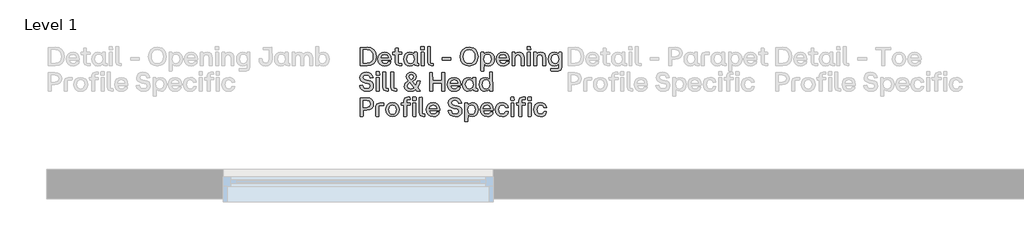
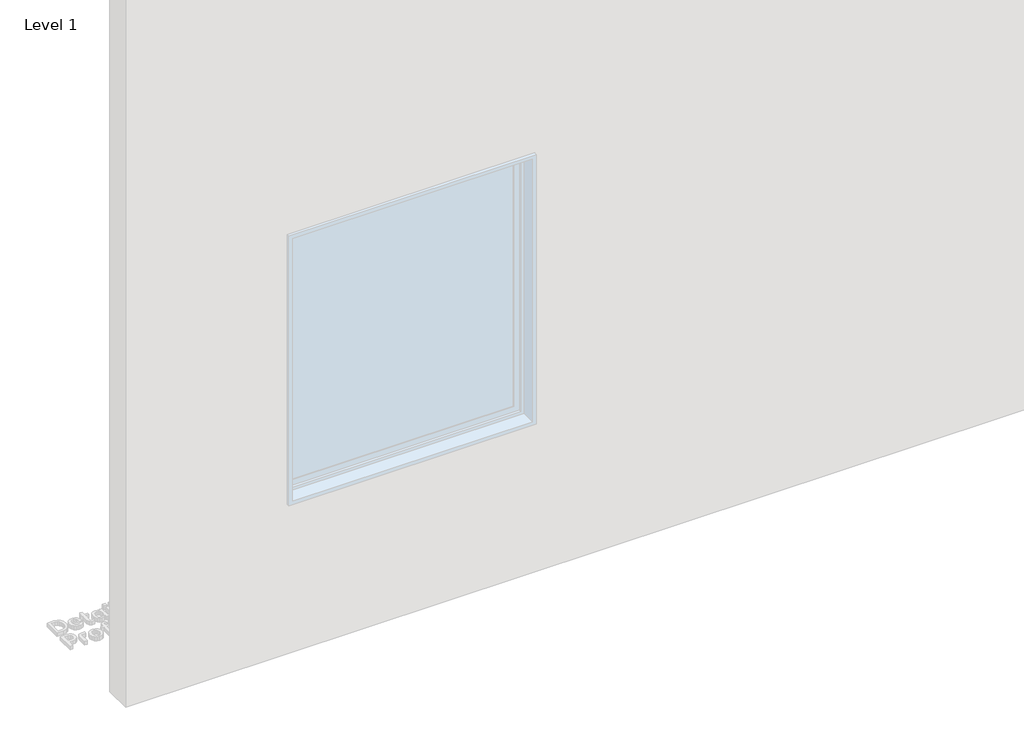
# One storey, part 61 of 64: 1 proxy.
"""IFC4 building model written with IfcOpenShell, lengths in millimetres."""

import ifcopenshell
import ifcopenshell.guid

model = None  # the IFC model being written
_history = None  # IfcOwnerHistory: only IFC2X3 demands one
_inside = {}  # id of a spatial element -> (the spatial element, [elements in it])
_under = {}  # id of a project, library or spatial element -> (it, [spatial elements below it])
_declared = {}  # id of a project -> (the project, [libraries it declares])
_typed = {}  # id of a type object -> (the type object, [elements of that type])
_made_of = {}  # id of a material, layer set ... -> (it, [elements and type objects made of it])


def new_model(schema):
    """Start an empty IFC model of exactly this schema.

    Asked for "IFC4X3", IfcOpenShell would pick the latest addendum, in which some entities
    have other attributes; the version numbers below select the first issue.
    IFC2X3 requires an IfcOwnerHistory on every rooted entity: one is made here for all.
    """
    global model, _history
    if schema == "IFC4X3":
        model = ifcopenshell.file(schema_version=(4, 3, 0, 0))
    else:
        model = ifcopenshell.file(schema=schema)
    _inside.clear()
    _under.clear()
    _declared.clear()
    _typed.clear()
    _made_of.clear()
    _history = None
    if model.schema == "IFC2X3":
        org = make("IfcOrganization", Name="unknown")
        user = make(
            "IfcPersonAndOrganization",
            ThePerson=make("IfcPerson", FamilyName="unknown"),
            TheOrganization=org,
        )
        app = make(
            "IfcApplication",
            ApplicationDeveloper=org,
            Version="unknown",
            ApplicationFullName="unknown",
            ApplicationIdentifier="unknown",
        )
        _history = make(
            "IfcOwnerHistory",
            OwningUser=user,
            OwningApplication=app,
            ChangeAction="ADDED",
            CreationDate=0,
        )
    return model


def make(cls, **values):
    """One entity of the class cls with the attributes given. An attribute that is None is left unset."""
    return model.create_entity(
        cls, **{name: value for name, value in values.items() if value is not None}
    )


def rooted(cls, **values):
    """An entity with a GlobalId (a new one), such as an element, a storey or a relation."""
    return make(cls, GlobalId=ifcopenshell.guid.new(), OwnerHistory=_history, **values)


def si_unit(unit_type, name, prefix=None):
    """IfcSIUnit, for example si_unit("LENGTHUNIT", "METRE", prefix="MILLI")."""
    return make("IfcSIUnit", UnitType=unit_type, Prefix=prefix, Name=name)


def assignment(units):
    """IfcUnitAssignment: the units of a project."""
    return None if units is None else make("IfcUnitAssignment", Units=units)


def point(xyz):
    """IfcCartesianPoint."""
    return None if xyz is None else make("IfcCartesianPoint", Coordinates=xyz)


def direction(xyz):
    """IfcDirection."""
    return None if xyz is None else make("IfcDirection", DirectionRatios=xyz)


def frame(location, z_axis=None, x_axis=None):
    """IfcAxis2Placement3D, a coordinate frame: its origin and axes. An axis left out is left unset."""
    return make(
        "IfcAxis2Placement3D",
        Location=point(location),
        Axis=direction(z_axis),
        RefDirection=direction(x_axis),
    )


def origin():
    """The frame at (0, 0, 0) with its axes left unset."""
    return frame((0.0, 0.0, 0.0))


def origin_with_axes():
    """The frame at (0, 0, 0) with the z axis (0, 0, 1) and the x axis (1, 0, 0) written out."""
    return frame((0.0, 0.0, 0.0), z_axis=(0.0, 0.0, 1.0), x_axis=(1.0, 0.0, 0.0))


def place(relative_to, where):
    """IfcLocalPlacement: puts the frame where relative to a parent placement (None: the world)."""
    return make(
        "IfcLocalPlacement", PlacementRelTo=relative_to, RelativePlacement=where
    )


def context(
    kind, dimensions, precision=None, world=None, true_north=None, identifier=None
):
    """IfcGeometricRepresentationContext, for example the 3D "Model" context."""
    return make(
        "IfcGeometricRepresentationContext",
        ContextIdentifier=identifier,
        ContextType=kind,
        CoordinateSpaceDimension=dimensions,
        Precision=precision,
        WorldCoordinateSystem=world,
        TrueNorth=true_north,
    )


def project(units=None, contexts=None):
    """IfcProject with its units and contexts."""
    return rooted(
        "IfcProject",
        Name="project",
        RepresentationContexts=contexts,
        UnitsInContext=assignment(units),
    )


def spatial(cls, under=None, at=None, **own):
    """A site, building, storey or space (cls), placed at a placement, below another one or the project."""
    s = rooted(cls, ObjectPlacement=at, **own)
    if under is not None:
        _under.setdefault(under.id(), (under, []))[1].append(s)
    return s


def polyline(points):
    """IfcPolyline through the points."""
    return make("IfcPolyline", Points=[point(p) for p in points])


def outline(outer, holes=None, kind="AREA"):
    """IfcArbitraryClosedProfileDef: a profile drawn as a closed curve; with holes, ...WithVoids."""
    if holes is None:
        return make("IfcArbitraryClosedProfileDef", ProfileType=kind, OuterCurve=outer)
    return make(
        "IfcArbitraryProfileDefWithVoids",
        ProfileType=kind,
        OuterCurve=outer,
        InnerCurves=holes,
    )


def extrude(swept, where, along, depth):
    """IfcExtrudedAreaSolid: the profile swept, set in the frame where, extruded along a direction by depth."""
    return make(
        "IfcExtrudedAreaSolid",
        SweptArea=swept,
        Position=where,
        ExtrudedDirection=direction(along),
        Depth=depth,
    )


def shape(context_of_items, identifier, shape_type, items):
    """IfcShapeRepresentation: the items that make up one representation, for example the "Body"."""
    return make(
        "IfcShapeRepresentation",
        ContextOfItems=context_of_items,
        RepresentationIdentifier=identifier,
        RepresentationType=shape_type,
        Items=items,
    )


def made_of(thing, what):
    """Note that an element or type object is made of a material, layer set ...; save() writes the relation."""
    if what is not None:
        _made_of.setdefault(what.id(), (what, []))[1].append(thing)
    return thing


def element(
    cls,
    number,
    at=None,
    inside=None,
    cuts=None,
    type_object=None,
    material=None,
    context=None,
    identifier="Body",
    shape_type=None,
    held_by="IfcProductDefinitionShape",
    body=None,
    shapes=None,
    **own,
):
    """One element of the class cls, such as IfcWall. Its Tag is "e" and its number.

    at: its placement. inside: the storey or other place that contains it. cuts: it is an
    opening in that element (IfcRelVoidsElement). A single representation is given by context,
    identifier, shape_type and body (its items); several are given by shapes. held_by: the class
    of the entity that holds the representations. save() writes the other relations.
    """
    e = rooted(cls, Tag="e%d" % number, ObjectPlacement=at, **own)
    if body is not None:
        shapes = [shape(context, identifier, shape_type, body)]
    if shapes is not None:
        e.Representation = make(held_by, Representations=shapes)
    if inside is not None:
        _inside.setdefault(inside.id(), (inside, []))[1].append(e)
    if cuts is not None:
        rooted(
            "IfcRelVoidsElement", RelatingBuildingElement=cuts, RelatedOpeningElement=e
        )
    if type_object is not None:
        _typed.setdefault(type_object.id(), (type_object, []))[1].append(e)
    return made_of(e, material)


def aggregate(whole, parts):
    """IfcRelAggregates: a whole, such as a stair, and the parts it consists of."""
    return rooted("IfcRelAggregates", RelatingObject=whole, RelatedObjects=parts)


def save(model, path):
    """Write the relations noted so far, then the file.

    IfcRelAggregates (storeys below a building ...), IfcRelContainedInSpatialStructure (elements
    in a storey), IfcRelDefinesByType, IfcRelAssociatesMaterial and IfcRelDeclares: one each for
    every whole, place, type object, material and project.
    """
    for whole, parts in _under.values():
        aggregate(whole, parts)
    for where, things in _inside.values():
        rooted(
            "IfcRelContainedInSpatialStructure",
            RelatedElements=things,
            RelatingStructure=where,
        )
    for kind, things in _typed.values():
        rooted("IfcRelDefinesByType", RelatedObjects=things, RelatingType=kind)
    for what, things in _made_of.values():
        rooted("IfcRelAssociatesMaterial", RelatedObjects=things, RelatingMaterial=what)
    for by, libraries in _declared.values():
        rooted("IfcRelDeclares", RelatingContext=by, RelatedDefinitions=libraries)
    model.write(path)


model = new_model("IFC4")

# Units and contexts
model_context = context("Model", 3, world=origin())
ifc_project = project(units=[si_unit("LENGTHUNIT", "METRE", prefix="MILLI")], contexts=[model_context])

# Site, building, storey
site = spatial("IfcSite", under=ifc_project)
building = spatial("IfcBuilding", under=site)
storey = spatial("IfcBuildingStorey", under=building, Name="Level 1", Elevation=0.0)

# Proxy
placement = place(None, origin())
element("IfcBuildingElementProxy", 1, Name="90mm", ObjectType="90mm", at=placement, inside=storey, context=model_context, shape_type="SweptSolid", body=[
    extrude(outline(polyline([(15110.2926176, 6000.0), (15108.9872124, 6001.2551973), (15108.9872124, 6088.6922388), (15142.5511873, 6089.997644), (15160.5475781, 6086.9945845), (15174.1193986, 6077.9854062), (15182.63905, 6063.6416394), (15185.4789338, 6044.6348148), (15182.648464, 6025.7974418), (15174.1570545, 6011.7109905), (15160.594648, 6002.9277476), (15142.5511873, 6000.0), (15110.2926176, 6000.0)]), holes=[polyline([(15123.7985402, 6012.6272845), (15141.6725492, 6012.6272845), (15153.8950326, 6014.688946), (15162.9481429, 6020.8739305), (15168.5494607, 6030.9374746), (15170.4165666, 6044.6348148), (15168.5431847, 6058.4890546), (15162.923039, 6068.8224661), (15153.8636527, 6075.2522141), (15141.6725492, 6077.3954634), (15123.7985402, 6077.3954634), (15123.7985402, 6012.6272845)])]), origin_with_axes(), (0.0, 0.0, 1.0), 20.0),
    extrude(outline(polyline([(15227.628458, 5999.2468816), (15214.0409476, 6001.5156507), (15203.5035666, 6008.3219579), (15196.7443293, 6018.9377888), (15194.4912502, 6032.6351289), (15196.7349153, 6046.4987827), (15203.4659107, 6057.2118914), (15213.9938777, 6064.0652685), (15227.628458, 6066.3497275), (15240.1584647, 6064.0966484), (15249.7324819, 6057.3374111), (15255.8044987, 6046.6870623), (15257.8285043, 6032.7606486), (15257.8285043, 6029.3214081), (15256.573307, 6027.990899), (15209.1268503, 6027.990899), (15214.6497183, 6015.3134066), (15227.628458, 6010.7946965), (15238.0465953, 6013.0917075), (15243.4439436, 6019.5308695), (15244.8246606, 6020.5852352), (15256.1967478, 6020.5852352), (15254.1633282, 6011.2685335), (15247.8120301, 6004.8074055), (15238.8248176, 6000.6370126), (15227.628458, 5999.2468816)]), holes=[polyline([(15209.2523701, 6038.4090363), (15243.8205028, 6038.4090363), (15239.0633051, 6050.3710663), (15227.628458, 6054.7266008), (15214.8631018, 6050.5844498), (15209.2523701, 6038.4090363)])]), origin_with_axes(), (0.0, 0.0, 1.0), 20.0),
    extrude(outline(polyline([(15296.6140998, 6000.0), (15282.731618, 6004.7697496), (15277.9618684, 6018.6522314), (15277.9618684, 6054.2245219), (15266.7906127, 6054.2245219), (15265.4852076, 6064.2661), (15266.7906127, 6065.5212973), (15277.9618684, 6065.5212973), (15277.9618684, 6083.54593), (15279.2170657, 6084.8513352), (15290.9657121, 6084.8513352), (15292.2209094, 6083.54593), (15292.2209094, 6065.5212973), (15308.0363949, 6065.5212973), (15309.3418001, 6064.2661), (15309.3418001, 6055.555031), (15292.2209094, 6054.2245219), (15292.2209094, 6011.2967754), (15308.0363949, 6011.2967754), (15309.3418001, 6010.0415781), (15309.3418001, 6001.2551973), (15308.0363949, 6000.0), (15296.6140998, 6000.0)])), origin_with_axes(), (0.0, 0.0, 1.0), 20.0),
    extrude(outline(polyline([(15347.2738615, 5999.2468816), (15335.3243835, 6001.5156507), (15326.0861316, 6008.3219579), (15320.1741525, 6018.9377888), (15318.2034928, 6032.6351289), (15320.1741525, 6046.4674028), (15326.0861316, 6057.1867875), (15335.3243835, 6064.0589925), (15347.2738615, 6066.3497275), (15359.1856835, 6063.4627738), (15368.160344, 6055.555031), (15368.7377347, 6064.2661), (15369.992932, 6065.5212973), (15381.6662665, 6065.5212973), (15382.9716717, 6064.2661), (15382.9716717, 6011.2967754), (15390.0760882, 6011.2967754), (15391.3312855, 6010.0415781), (15391.3312855, 6001.2551973), (15390.0760882, 6000.0), (15380.536589, 6000.0), (15372.1581473, 6002.3534949), (15369.3653333, 6009.4139795), (15359.7254183, 6002.1338354), (15347.2738615, 5999.2468816)]), holes=[polyline([(15332.7135732, 6032.6351289), (15337.6716024, 6016.6313638), (15343.5365116, 6012.2538633), (15351.2151809, 6010.7946965), (15358.7714684, 6012.2475873), (15364.470064, 6016.6062598), (15369.2398136, 6032.6351289), (15364.4324081, 6048.8271737), (15358.7243985, 6053.251744), (15351.2151809, 6054.7266008), (15343.5365116, 6053.251744), (15337.6716024, 6048.8271737), (15332.7135732, 6032.6351289)])]), origin_with_axes(), (0.0, 0.0, 1.0), 20.0),
    extrude(outline(polyline([(15403.6824266, 6000.0), (15402.3770214, 6001.2551973), (15402.3770214, 6064.2661), (15403.6824266, 6065.5212973), (15415.3557612, 6065.5212973), (15416.6109584, 6064.2661), (15416.6109584, 6001.2551973), (15415.3557612, 6000.0), (15403.6824266, 6000.0)])), origin_with_axes(), (0.0, 0.0, 1.0), 20.0),
    extrude(outline(polyline([(15401.3728636, 6078.1485818), (15401.3728636, 6092.0059596), (15402.6280609, 6093.3364687), (15416.4854387, 6093.3364687), (15417.8159478, 6078.1485818), (15416.4854387, 6076.8933845), (15402.6280609, 6076.8933845), (15401.3728636, 6078.1485818)])), origin_with_axes(), (0.0, 0.0, 1.0), 20.0),
    extrude(outline(polyline([(15451.5305464, 6000.0), (15437.6731686, 6004.7697496), (15432.903419, 6018.6522314), (15432.903419, 6091.2528413), (15445.8821587, 6092.5833504), (15447.137356, 6091.2528413), (15447.137356, 6011.2967754), (15459.1370418, 6011.2967754), (15460.3922391, 6010.0415781), (15460.3922391, 6001.2551973), (15459.1370418, 6000.0), (15451.5305464, 6000.0)])), origin_with_axes(), (0.0, 0.0, 1.0), 20.0),
    extrude(outline(polyline([(15505.1776775, 6027.112261), (15503.9224803, 6028.4427701), (15503.9224803, 6038.4090363), (15505.1776775, 6039.7395454), (15543.7875455, 6039.7395454), (15545.0427427, 6038.4090363), (15545.0427427, 6028.4427701), (15543.7875455, 6027.112261), (15505.1776775, 6027.112261)])), origin_with_axes(), (0.0, 0.0, 1.0), 20.0),
    extrude(outline(polyline([(15633.1575908, 5999.2468816), (15615.6946589, 6002.3534949), (15602.0663545, 6011.6733346), (15593.2831117, 6026.1269311), (15590.355364, 6044.6348148), (15593.2893876, 6063.37491), (15602.0914585, 6078.07327), (15615.7260388, 6087.5813893), (15633.1575908, 6090.7507624), (15655.6883817, 6085.0396148), (15664.302173, 6078.1360298), (15670.6879891, 6068.8475701), (15675.9598176, 6044.6348148), (15670.6879891, 6020.8362746), (15664.302173, 6011.7047145), (15655.6883817, 6004.8952693), (15633.1575908, 5999.2468816)]), holes=[polyline([(15605.4177312, 6044.6348148), (15607.2848372, 6031.0692703), (15612.886155, 6020.647995), (15621.6882258, 6014.0111395), (15633.1575908, 6011.7988543), (15644.6740257, 6014.0048635), (15653.4666826, 6020.6228911), (15659.0397584, 6031.0378904), (15660.8974504, 6044.6348148), (15659.0303445, 6058.5047446), (15653.4290267, 6069.1362654), (15644.6269558, 6075.8955027), (15633.1575908, 6078.1485818), (15621.6882258, 6075.8955027), (15612.886155, 6069.1362654), (15607.2848372, 6058.5047446), (15605.4177312, 6044.6348148)])]), origin_with_axes(), (0.0, 0.0, 1.0), 20.0),
    extrude(outline(polyline([(15691.2732242, 5975.5989651), (15689.9678191, 5976.8541624), (15689.9678191, 6064.2661), (15691.2732242, 6065.5212973), (15702.3189602, 6065.5212973), (15703.5741575, 6064.2661), (15703.5741575, 6055.6805507), (15713.2140725, 6063.4627738), (15725.6656293, 6066.3497275), (15737.6151073, 6064.0746824), (15746.8533592, 6057.2495473), (15752.7653383, 6046.6086125), (15754.735998, 6032.8861684), (15752.7653383, 6019.0789984), (15746.8533592, 6008.3847177), (15737.6151073, 6001.5313407), (15725.6656293, 5999.2468816), (15713.7538073, 6002.1338354), (15704.7791468, 6010.0415781), (15704.2017561, 5976.8541624), (15702.9465588, 5975.5989651), (15691.2732242, 5975.5989651)]), holes=[polyline([(15703.6996772, 6032.8861684), (15708.5070827, 6016.6941236), (15714.2150923, 6012.2695533), (15721.7243099, 6010.7946965), (15729.4029792, 6012.2695533), (15735.2678884, 6016.6941236), (15740.2259176, 6032.8861684), (15735.2678884, 6048.8899335), (15729.4029792, 6053.267434), (15721.7243099, 6054.7266008), (15714.1680224, 6053.276848), (15708.4694268, 6048.9275894), (15703.6996772, 6032.8861684)])]), origin_with_axes(), (0.0, 0.0, 1.0), 20.0),
    extrude(outline(polyline([(15796.3834433, 5999.2468816), (15782.7959329, 6001.5156507), (15772.2585519, 6008.3219579), (15765.4993146, 6018.9377888), (15763.2462355, 6032.6351289), (15765.4899006, 6046.4987827), (15772.2208959, 6057.2118914), (15782.748863, 6064.0652685), (15796.3834433, 6066.3497275), (15808.91345, 6064.0966484), (15818.4874672, 6057.3374111), (15824.559484, 6046.6870623), (15826.5834895, 6032.7606486), (15826.5834895, 6029.3214081), (15825.3282923, 6027.990899), (15777.8818356, 6027.990899), (15783.4047036, 6015.3134066), (15796.3834433, 6010.7946965), (15806.8015806, 6013.0917075), (15812.1989289, 6019.5308695), (15813.5796459, 6020.5852352), (15824.9517331, 6020.5852352), (15822.9183135, 6011.2685335), (15816.5670154, 6004.8074055), (15807.5798029, 6000.6370126), (15796.3834433, 5999.2468816)]), holes=[polyline([(15778.0073553, 6038.4090363), (15812.5754881, 6038.4090363), (15807.8182904, 6050.3710663), (15796.3834433, 6054.7266008), (15783.6180871, 6050.5844498), (15778.0073553, 6038.4090363)])]), origin_with_axes(), (0.0, 0.0, 1.0), 20.0),
    extrude(outline(polyline([(15840.6919068, 6000.0), (15839.3865017, 6001.2551973), (15839.3865017, 6064.2661), (15840.6919068, 6065.5212973), (15851.7376428, 6065.5212973), (15852.99284, 6064.2661), (15852.99284, 6055.555031), (15862.2875758, 6063.6510534), (15874.2056738, 6066.3497275), (15884.1311462, 6064.4669316), (15891.4144284, 6058.8185439), (15895.8860686, 6049.5426361), (15897.3766154, 6036.7772799), (15897.3766154, 6001.2551973), (15896.0461063, 6000.0), (15884.3727717, 6000.0), (15883.0673665, 6001.2551973), (15883.0673665, 6036.7772799), (15879.5528142, 6050.057267), (15868.4443184, 6054.2245219), (15857.2354068, 6049.9945071), (15853.6204387, 6036.7772799), (15853.6204387, 6001.2551973), (15852.3652414, 6000.0), (15840.6919068, 6000.0)])), origin_with_axes(), (0.0, 0.0, 1.0), 20.0),
    extrude(outline(polyline([(15914.5979219, 6000.0), (15913.2925167, 6001.2551973), (15913.2925167, 6064.2661), (15914.5979219, 6065.5212973), (15926.2712564, 6065.5212973), (15927.5264537, 6064.2661), (15927.5264537, 6001.2551973), (15926.2712564, 6000.0), (15914.5979219, 6000.0)])), origin_with_axes(), (0.0, 0.0, 1.0), 20.0),
    extrude(outline(polyline([(15912.2883589, 6078.1485818), (15912.2883589, 6092.0059596), (15913.5435562, 6093.3364687), (15927.400934, 6093.3364687), (15928.7314431, 6078.1485818), (15927.400934, 6076.8933845), (15913.5435562, 6076.8933845), (15912.2883589, 6078.1485818)])), origin_with_axes(), (0.0, 0.0, 1.0), 20.0),
    extrude(outline(polyline([(15945.1243194, 6000.0), (15943.8189142, 6001.2551973), (15943.8189142, 6064.2661), (15945.1243194, 6065.5212973), (15956.1700553, 6065.5212973), (15957.4252526, 6064.2661), (15957.4252526, 6055.555031), (15966.7199883, 6063.6510534), (15978.6380864, 6066.3497275), (15988.5635588, 6064.4669316), (15995.8468409, 6058.8185439), (16000.3184812, 6049.5426361), (16001.8090279, 6036.7772799), (16001.8090279, 6001.2551973), (16000.4785188, 6000.0), (15988.8051842, 6000.0), (15987.4997791, 6001.2551973), (15987.4997791, 6036.7772799), (15983.9852267, 6050.057267), (15972.8767309, 6054.2245219), (15961.6678193, 6049.9945071), (15958.0528512, 6036.7772799), (15958.0528512, 6001.2551973), (15956.797654, 6000.0), (15945.1243194, 6000.0)])), origin_with_axes(), (0.0, 0.0, 1.0), 20.0),
    extrude(outline(polyline([(16027.5154679, 5975.5989651), (16026.1849588, 5976.8541624), (16026.1849588, 5985.6405433), (16027.5154679, 5986.8957405), (16064.4182676, 5986.8957405), (16064.4182676, 6010.0415781), (16054.8662164, 6002.1338354), (16042.9543943, 5999.2468816), (16031.0049163, 6001.5313407), (16021.7666645, 6008.3847177), (16015.8546853, 6019.0789984), (16013.8840256, 6032.8861684), (16015.8546853, 6046.6086125), (16021.7666645, 6057.2495473), (16031.0049163, 6064.0746824), (16042.9543943, 6066.3497275), (16055.4059512, 6063.4627738), (16064.5437873, 6055.6805507), (16065.0458662, 6064.2661), (16066.3010635, 6065.5212973), (16077.3467994, 6065.5212973), (16078.6522046, 6064.2661), (16078.6522046, 5993.5984939), (16074.0079747, 5980.2055391), (16060.6526758, 5975.5989651), (16027.5154679, 5975.5989651)]), holes=[polyline([(16028.394106, 6032.8861684), (16033.3521352, 6016.6941236), (16039.2170444, 6012.2695533), (16046.8957137, 6010.7946965), (16054.4049314, 6012.2695533), (16060.1129409, 6016.6941236), (16064.9203465, 6032.8861684), (16060.1505969, 6048.9275894), (16054.4520013, 6053.276848), (16046.8957137, 6054.7266008), (16039.2170444, 6053.267434), (16033.3521352, 6048.8899335), (16028.394106, 6032.8861684)])]), origin_with_axes(), (0.0, 0.0, 1.0), 20.0),
    extrude(outline(polyline([(15141.1202624, 5877.1138316), (15127.3507484, 5878.9652476), (15116.6690197, 5884.5194955), (15109.4077035, 5893.4941559), (15105.8994272, 5905.6068096), (15119.1543103, 5907.0628384), (15120.4597154, 5905.857849), (15126.647838, 5893.3058764), (15141.1202624, 5889.4147648), (15153.6345792, 5892.992077), (15158.1156334, 5902.9206874), (15155.0152962, 5911.1673335), (15144.6348148, 5915.2718285), (15132.7606486, 5917.355456), (15121.7557066, 5920.6095549), (15113.8950337, 5925.9284533), (15109.17863, 5933.3121512), (15107.6064954, 5942.7606486), (15109.621087, 5953.602415), (15115.6648619, 5961.7768872), (15125.3173289, 5966.9075061), (15138.1579969, 5968.6177123), (15150.8919732, 5966.8855401), (15160.8268595, 5961.6890234), (15167.6174767, 5953.3356856), (15170.9186455, 5942.13305), (15157.7390742, 5940.7021251), (15156.3081494, 5942.13305), (15150.496586, 5952.8398827), (15138.1579969, 5956.2665712), (15126.3967985, 5953.1285781), (15122.3425113, 5943.965638), (15125.9574795, 5935.267121), (15137.2793588, 5930.7107549), (15149.0782131, 5928.6522314), (15159.8980135, 5925.4828583), (15167.2534695, 5920.3930334), (15171.4709323, 5913.0626813), (15172.8767533, 5903.1717269), (15170.7648839, 5892.2577866), (15164.4292757, 5884.0174166), (15154.3782836, 5878.8397279), (15141.1202624, 5877.1138316)])), origin_with_axes(), (0.0, 0.0, 1.0), 20.0),
    extrude(outline(polyline([(15188.3909915, 5877.86695), (15187.0855863, 5879.1221472), (15187.0855863, 5942.13305), (15188.3909915, 5943.3882473), (15200.0643261, 5943.3882473), (15201.3195233, 5942.13305), (15201.3195233, 5879.1221472), (15200.0643261, 5877.86695), (15188.3909915, 5877.86695)])), origin_with_axes(), (0.0, 0.0, 1.0), 20.0),
    extrude(outline(polyline([(15186.0814285, 5956.0155318), (15186.0814285, 5969.8729096), (15187.3366258, 5971.2034187), (15201.1940036, 5971.2034187), (15202.5245127, 5956.0155318), (15201.1940036, 5954.7603345), (15187.3366258, 5954.7603345), (15186.0814285, 5956.0155318)])), origin_with_axes(), (0.0, 0.0, 1.0), 20.0),
    extrude(outline(polyline([(15236.2391113, 5877.86695), (15222.3817335, 5882.6366996), (15217.6119838, 5896.5191814), (15217.6119838, 5969.1197912), (15230.5907236, 5970.4503003), (15231.8459208, 5969.1197912), (15231.8459208, 5889.1637254), (15243.8456067, 5889.1637254), (15245.100804, 5887.9085281), (15245.100804, 5879.1221472), (15243.8456067, 5877.86695), (15236.2391113, 5877.86695)])), origin_with_axes(), (0.0, 0.0, 1.0), 20.0),
    extrude(outline(polyline([(15274.7987713, 5877.86695), (15260.9413935, 5882.6366996), (15256.1716439, 5896.5191814), (15256.1716439, 5969.1197912), (15269.1503836, 5970.4503003), (15270.4055809, 5969.1197912), (15270.4055809, 5889.1637254), (15282.4052667, 5889.1637254), (15283.660464, 5887.9085281), (15283.660464, 5879.1221472), (15282.4052667, 5877.86695), (15274.7987713, 5877.86695)])), origin_with_axes(), (0.0, 0.0, 1.0), 20.0),
    extrude(outline(polyline([(15350.8637256, 5877.1138316), (15338.8201079, 5878.6828282), (15329.7010997, 5883.389818), (15323.9585722, 5890.8770696), (15322.0443964, 5900.7868521), (15326.4752428, 5916.1002587), (15340.1945489, 5926.1920447), (15338.9895595, 5928.0246327), (15332.7261251, 5937.3633004), (15330.7805694, 5947.7814377), (15332.3558419, 5956.5835085), (15337.0816597, 5963.1576042), (15344.6630511, 5967.2526853), (15354.8050451, 5968.6177123), (15364.8717271, 5967.2840652), (15372.4782226, 5963.283124), (15377.2605241, 5956.9286878), (15378.8546247, 5948.5345561), (15374.109979, 5934.4763467), (15360.5789525, 5924.6356001), (15377.0220367, 5904.9792109), (15383.6243743, 5925.8154856), (15384.8795716, 5927.0706828), (15396.603114, 5927.0706828), (15397.7327916, 5925.8154856), (15394.1554793, 5909.6108888), (15385.6828978, 5895.6405433), (15399.0633007, 5879.4484985), (15382.2938652, 5877.86695), (15380.7876285, 5878.6200683), (15375.6413197, 5884.8458468), (15364.1562647, 5878.9338677), (15350.8637256, 5877.1138316)]), holes=[polyline([(15336.5544768, 5903.0462071), (15340.5711081, 5892.3017185), (15352.3699624, 5888.6616465), (15367.683369, 5893.5569158), (15346.7215747, 5918.8616927), (15339.0962513, 5912.3346669), (15336.5544768, 5903.0462071)]), polyline([(15345.3408577, 5947.7814377), (15346.7215747, 5941.7564908), (15351.3658045, 5935.0537374), (15353.5498478, 5932.4680311), (15361.6458702, 5939.2460963), (15364.3445443, 5948.5345561), (15361.9596695, 5954.9360621), (15354.8050451, 5957.0698975), (15347.6253167, 5954.7854385), (15345.3408577, 5947.7814377)])]), origin_with_axes(), (0.0, 0.0, 1.0), 20.0),
    extrude(outline(polyline([(15502.1652041, 5877.86695), (15500.9100068, 5879.1221472), (15500.9100068, 5917.355456), (15457.9822603, 5917.355456), (15457.9822603, 5879.1221472), (15456.6517512, 5877.86695), (15444.4763378, 5877.86695), (15443.1709326, 5879.1221472), (15443.1709326, 5966.5591888), (15456.6517512, 5967.864594), (15457.9822603, 5929.9074286), (15500.9100068, 5929.9074286), (15500.9100068, 5966.5591888), (15502.1652041, 5967.864594), (15514.3908255, 5967.864594), (15515.6460228, 5966.5591888), (15515.6460228, 5879.1221472), (15514.3908255, 5877.86695), (15502.1652041, 5877.86695)])), origin_with_axes(), (0.0, 0.0, 1.0), 20.0),
    extrude(outline(polyline([(15561.8121782, 5877.1138316), (15548.2246678, 5879.3826007), (15537.6872867, 5886.1889079), (15530.9280495, 5896.8047387), (15528.6749704, 5910.5020789), (15530.9186355, 5924.3657327), (15537.6496308, 5935.0788414), (15548.1775979, 5941.9322185), (15561.8121782, 5944.2166775), (15574.3421849, 5941.9635984), (15583.9162021, 5935.2043611), (15589.9882188, 5924.5540123), (15592.0122244, 5910.6275986), (15592.0122244, 5907.1883581), (15590.7570272, 5905.857849), (15543.3105705, 5905.857849), (15548.8334385, 5893.1803566), (15561.8121782, 5888.6616465), (15572.2303155, 5890.9586575), (15577.6276638, 5897.3978194), (15579.0083808, 5898.4521852), (15590.380468, 5898.4521852), (15588.3470484, 5889.1354834), (15581.9957502, 5882.6743555), (15573.0085378, 5878.5039626), (15561.8121782, 5877.1138316)]), holes=[polyline([(15543.4360902, 5916.2759863), (15578.0042229, 5916.2759863), (15573.2470253, 5928.2380163), (15561.8121782, 5932.5935508), (15549.046822, 5928.4513998), (15543.4360902, 5916.2759863)])]), origin_with_axes(), (0.0, 0.0, 1.0), 20.0),
    extrude(outline(polyline([(15630.0447016, 5877.1138316), (15618.0952236, 5879.3826007), (15608.8569717, 5886.1889079), (15602.9449926, 5896.8047387), (15600.9743329, 5910.5020789), (15602.9449926, 5924.3343528), (15608.8569717, 5935.0537374), (15618.0952236, 5941.9259425), (15630.0447016, 5944.2166775), (15641.9565237, 5941.3297238), (15650.9311841, 5933.421981), (15651.5085749, 5942.13305), (15652.7637721, 5943.3882473), (15664.4371067, 5943.3882473), (15665.7425119, 5942.13305), (15665.7425119, 5889.1637254), (15672.8469284, 5889.1637254), (15674.1021256, 5887.9085281), (15674.1021256, 5879.1221472), (15672.8469284, 5877.86695), (15663.3074292, 5877.86695), (15654.9289874, 5880.2204449), (15652.1361735, 5887.2809295), (15642.4962585, 5880.0007853), (15630.0447016, 5877.1138316)]), holes=[polyline([(15615.4844133, 5910.5020789), (15620.4424425, 5894.4983138), (15626.3073517, 5890.1208133), (15633.986021, 5888.6616465), (15641.5423086, 5890.1145373), (15647.2409041, 5894.4732098), (15652.0106538, 5910.5020789), (15647.2032482, 5926.6941236), (15641.4952387, 5931.118694), (15633.986021, 5932.5935508), (15626.3073517, 5931.118694), (15620.4424425, 5926.6941236), (15615.4844133, 5910.5020789)])]), origin_with_axes(), (0.0, 0.0, 1.0), 20.0),
    extrude(outline(polyline([(15710.3773266, 5877.1138316), (15698.4278487, 5879.3826007), (15689.1895968, 5886.1889079), (15683.2776177, 5896.8047387), (15681.306958, 5910.5020789), (15683.2776177, 5924.3343528), (15689.1895968, 5935.0537374), (15698.4278487, 5941.9259425), (15710.3773266, 5944.2166775), (15722.2891487, 5941.3297238), (15731.2638091, 5933.421981), (15731.8411999, 5969.1197912), (15733.0963972, 5970.4503003), (15744.7697317, 5970.4503003), (15746.0751369, 5879.1221472), (15744.7697317, 5877.86695), (15733.7239958, 5877.86695), (15732.4687985, 5879.1221472), (15732.4687985, 5887.7830084), (15722.8288835, 5880.0007853), (15710.3773266, 5877.1138316)]), holes=[polyline([(15695.8170383, 5910.5020789), (15700.7750676, 5894.4983138), (15706.6399768, 5890.1208133), (15714.3186461, 5888.6616465), (15721.8749336, 5890.1145373), (15727.5735292, 5894.4732098), (15732.3432788, 5910.5020789), (15727.5358733, 5926.6941236), (15721.8278637, 5931.118694), (15714.3186461, 5932.5935508), (15706.6399768, 5931.118694), (15700.7750676, 5926.6941236), (15695.8170383, 5910.5020789)])]), origin_with_axes(), (0.0, 0.0, 1.0), 20.0),
    extrude(outline(polyline([(15110.2926176, 5755.7339), (15108.9872124, 5756.9890972), (15108.9872124, 5844.4261388), (15140.1161046, 5845.731544), (15154.0174144, 5843.8330581), (15164.3414119, 5838.1376005), (15170.7429179, 5828.9432805), (15172.8767533, 5816.5482075), (15170.7429179, 5804.1531345), (15164.3414119, 5794.9588145), (15154.0174144, 5789.2633569), (15140.1161046, 5787.3648711), (15123.7985402, 5787.3648711), (15123.7985402, 5756.9890972), (15122.4680311, 5755.7339), (15110.2926176, 5755.7339)]), holes=[polyline([(15123.7985402, 5799.9921556), (15140.1161046, 5799.9921556), (15153.5969233, 5804.0715467), (15157.9901137, 5816.5607595), (15153.5969233, 5829.0499723), (15140.1161046, 5833.1293634), (15123.7985402, 5833.1293634), (15123.7985402, 5799.9921556)])]), origin_with_axes(), (0.0, 0.0, 1.0), 20.0),
    extrude(outline(polyline([(15186.1065325, 5755.7339), (15184.8513352, 5756.9890972), (15184.8513352, 5802.6782777), (15189.6210848, 5816.5231036), (15203.4784626, 5821.2551973), (15221.7541348, 5821.2551973), (15223.0093321, 5820.0), (15223.0093321, 5810.4605008), (15221.7541348, 5809.2053035), (15199.0852722, 5809.2053035), (15199.0852722, 5756.9890972), (15197.8300749, 5755.7339), (15186.1065325, 5755.7339)])), origin_with_axes(), (0.0, 0.0, 1.0), 20.0),
    extrude(outline(polyline([(15264.2049064, 5754.9807816), (15250.9782652, 5757.2872066), (15240.519334, 5764.2064815), (15233.7130268, 5774.8599683), (15231.4442577, 5788.3690289), (15233.7193028, 5801.9659533), (15240.5444379, 5812.7324078), (15251.0096451, 5819.7458226), (15264.2049064, 5822.0836275), (15277.5570673, 5819.7458226), (15288.0913103, 5812.7324078), (15294.9352734, 5801.9659533), (15297.2165945, 5788.3690289), (15294.9352734, 5774.8599683), (15288.0913103, 5764.2064815), (15277.5570673, 5757.2872066), (15264.2049064, 5754.9807816)]), holes=[polyline([(15245.9543381, 5788.3690289), (15250.8119515, 5772.3401598), (15256.588997, 5767.9814873), (15264.2049064, 5766.5285965), (15271.9024036, 5767.9877633), (15277.7735888, 5772.3652637), (15282.731618, 5788.3690289), (15277.7986928, 5804.5610736), (15271.9337835, 5808.985644), (15264.2049064, 5810.4605008), (15256.588997, 5808.985644), (15250.8119515, 5804.5610736), (15245.9543381, 5788.3690289)])]), origin_with_axes(), (0.0, 0.0, 1.0), 20.0),
    extrude(outline(polyline([(15319.3833782, 5755.7339), (15318.1281809, 5756.9890972), (15318.1281809, 5809.9584219), (15306.9569253, 5809.9584219), (15305.6515201, 5820.0), (15306.9569253, 5821.2551973), (15318.1281809, 5821.2551973), (15318.1281809, 5829.665019), (15322.8979305, 5843.5475007), (15336.7804123, 5848.3172503), (15348.2027074, 5848.3172503), (15349.5081126, 5838.2756722), (15332.3872219, 5836.9451631), (15332.3872219, 5821.2551973), (15348.2027074, 5821.2551973), (15349.5081126, 5820.0), (15349.5081126, 5811.288931), (15332.3872219, 5809.9584219), (15332.3872219, 5756.9890972), (15331.1320246, 5755.7339), (15319.3833782, 5755.7339)])), origin_with_axes(), (0.0, 0.0, 1.0), 20.0),
    extrude(outline(polyline([(15361.3069669, 5833.8824818), (15361.3069669, 5847.7398596), (15362.5621642, 5849.0703687), (15376.4948538, 5849.0703687), (15377.7500511, 5847.7398596), (15377.7500511, 5833.8824818), (15376.4948538, 5832.6272845), (15362.5621642, 5832.6272845), (15361.3069669, 5833.8824818)])), origin_with_axes(), (0.0, 0.0, 1.0), 20.0),
    extrude(outline(polyline([(15362.3111247, 5756.9890972), (15362.3111247, 5820.0), (15363.6416338, 5821.2551973), (15375.3149684, 5821.2551973), (15376.6203735, 5820.0), (15376.6203735, 5756.9890972), (15375.3149684, 5755.7339), (15363.6416338, 5755.7339), (15362.3111247, 5756.9890972)])), origin_with_axes(), (0.0, 0.0, 1.0), 20.0),
    extrude(outline(polyline([(15411.3642339, 5755.7339), (15397.506856, 5760.5036496), (15392.7371064, 5774.3861313), (15392.7371064, 5846.9867412), (15405.7158462, 5848.3172503), (15406.9710434, 5846.9867412), (15406.9710434, 5767.0306754), (15418.9707293, 5767.0306754), (15420.2259266, 5765.7754781), (15420.2259266, 5756.9890972), (15418.9707293, 5755.7339), (15411.3642339, 5755.7339)])), origin_with_axes(), (0.0, 0.0, 1.0), 20.0),
    extrude(outline(polyline([(15460.5930707, 5754.9807816), (15447.0055602, 5757.2495507), (15436.4681792, 5764.0558578), (15429.7089419, 5774.6716887), (15427.4558628, 5788.3690289), (15429.6995279, 5802.2326827), (15436.4305233, 5812.9457914), (15446.9584903, 5819.7991684), (15460.5930707, 5822.0836275), (15473.1230774, 5819.8305484), (15482.6970945, 5813.0713111), (15488.7691113, 5802.4209623), (15490.7931169, 5788.4945486), (15490.7931169, 5785.0553081), (15489.5379196, 5783.724799), (15442.0914629, 5783.724799), (15447.6143309, 5771.0473066), (15460.5930707, 5766.5285965), (15471.011208, 5768.8256075), (15476.4085562, 5775.2647694), (15477.7892732, 5776.3191351), (15489.1613604, 5776.3191351), (15487.1279409, 5767.0024334), (15480.7766427, 5760.5413055), (15471.7894303, 5756.3709126), (15460.5930707, 5754.9807816)]), holes=[polyline([(15442.2169827, 5794.1429363), (15476.7851154, 5794.1429363), (15472.0279177, 5806.1049663), (15460.5930707, 5810.4605008), (15447.8277145, 5806.3183498), (15442.2169827, 5794.1429363)])]), origin_with_axes(), (0.0, 0.0, 1.0), 20.0),
    extrude(outline(polyline([(15566.8831752, 5754.9807816), (15553.1136611, 5756.8321976), (15542.4319324, 5762.3864455), (15535.1706162, 5771.3611059), (15531.6623399, 5783.4737596), (15544.917223, 5784.9297884), (15546.2226282, 5783.724799), (15552.4107507, 5771.1728263), (15566.8831752, 5767.2817148), (15579.3974919, 5770.859027), (15583.8785461, 5780.7876374), (15580.7782089, 5789.0342834), (15570.3977275, 5793.1387785), (15558.5235614, 5795.222406), (15547.5186193, 5798.4765049), (15539.6579465, 5803.7954033), (15534.9415427, 5811.1791012), (15533.3694082, 5820.6275986), (15535.3839998, 5831.469365), (15541.4277746, 5839.6438372), (15551.0802416, 5844.774456), (15563.9209096, 5846.4846623), (15576.6548859, 5844.7524901), (15586.5897722, 5839.5559734), (15593.3803895, 5831.2026356), (15596.6815583, 5820.0), (15583.501987, 5818.5690751), (15582.0710621, 5820.0), (15576.2594987, 5830.7068327), (15563.9209096, 5834.1335212), (15552.1597112, 5830.9955281), (15548.1054241, 5821.832588), (15551.7203922, 5813.134071), (15563.0422715, 5808.5777049), (15574.8411258, 5806.5191814), (15585.6609263, 5803.3498083), (15593.0163822, 5798.2599833), (15597.2338451, 5790.9296313), (15598.639666, 5781.0386769), (15596.5277966, 5770.1247366), (15590.1921884, 5761.8843666), (15580.1411963, 5756.7066778), (15566.8831752, 5754.9807816)])), origin_with_axes(), (0.0, 0.0, 1.0), 20.0),
    extrude(outline(polyline([(15614.1539042, 5731.3328651), (15612.848499, 5732.5880624), (15612.848499, 5820.0), (15614.1539042, 5821.2551973), (15625.1996401, 5821.2551973), (15626.4548374, 5820.0), (15626.4548374, 5811.4144507), (15636.0947524, 5819.1966737), (15648.5463093, 5822.0836275), (15660.4957873, 5819.8085824), (15669.7340392, 5812.9834473), (15675.6460183, 5802.3425125), (15677.616678, 5788.6200683), (15675.6460183, 5774.8128984), (15669.7340392, 5764.1186177), (15660.4957873, 5757.2652406), (15648.5463093, 5754.9807816), (15636.6344872, 5757.8677353), (15627.6598268, 5765.7754781), (15627.082436, 5732.5880624), (15625.8272388, 5731.3328651), (15614.1539042, 5731.3328651)]), holes=[polyline([(15626.5803571, 5788.6200683), (15631.3877627, 5772.4280236), (15637.0957722, 5768.0034532), (15644.6049899, 5766.5285965), (15652.2836592, 5768.0034532), (15658.1485684, 5772.4280236), (15663.1065976, 5788.6200683), (15658.1485684, 5804.6238335), (15652.2836592, 5809.001334), (15644.6049899, 5810.4605008), (15637.0487023, 5809.0107479), (15631.3501068, 5804.6614894), (15626.5803571, 5788.6200683)])]), origin_with_axes(), (0.0, 0.0, 1.0), 20.0),
    extrude(outline(polyline([(15719.2641233, 5754.9807816), (15705.6766129, 5757.2495507), (15695.1392318, 5764.0558578), (15688.3799945, 5774.6716887), (15686.1269155, 5788.3690289), (15688.3705806, 5802.2326827), (15695.1015759, 5812.9457914), (15705.629543, 5819.7991684), (15719.2641233, 5822.0836275), (15731.79413, 5819.8305484), (15741.3681471, 5813.0713111), (15747.4401639, 5802.4209623), (15749.4641695, 5788.4945486), (15749.4641695, 5785.0553081), (15748.2089722, 5783.724799), (15700.7625156, 5783.724799), (15706.2853836, 5771.0473066), (15719.2641233, 5766.5285965), (15729.6822606, 5768.8256075), (15735.0796088, 5775.2647694), (15736.4603258, 5776.3191351), (15747.8324131, 5776.3191351), (15745.7989935, 5767.0024334), (15739.4476953, 5760.5413055), (15730.4604829, 5756.3709126), (15719.2641233, 5754.9807816)]), holes=[polyline([(15700.8880353, 5794.1429363), (15735.456168, 5794.1429363), (15730.6989704, 5806.1049663), (15719.2641233, 5810.4605008), (15706.4987671, 5806.3183498), (15700.8880353, 5794.1429363)])]), origin_with_axes(), (0.0, 0.0, 1.0), 20.0),
    extrude(outline(polyline([(15791.4379661, 5754.9807816), (15777.9445955, 5757.2495507), (15767.4385944, 5764.0558578), (15760.6793571, 5774.6716887), (15758.426278, 5788.3690289), (15760.710737, 5801.9659533), (15767.5641141, 5812.7324078), (15778.1014951, 5819.7458226), (15791.4379661, 5822.0836275), (15802.4209422, 5820.5365968), (15811.3704987, 5815.8955049), (15817.6841409, 5808.7126386), (15820.7593742, 5799.5402846), (15808.1320897, 5798.1595676), (15801.7054797, 5807.6990668), (15791.4379661, 5810.4605008), (15783.680847, 5808.985644), (15777.8316277, 5804.5610736), (15772.9363584, 5788.3690289), (15777.8567317, 5772.3025039), (15783.7122269, 5767.9720733), (15791.4379661, 5766.5285965), (15802.019279, 5769.1645107), (15807.3789714, 5777.6998521), (15808.7596884, 5778.9048415), (15820.1317756, 5778.9048415), (15818.12346, 5768.3957024), (15811.7470579, 5761.1689041), (15802.7033616, 5756.5278122), (15791.4379661, 5754.9807816)])), origin_with_axes(), (0.0, 0.0, 1.0), 20.0),
    extrude(outline(polyline([(15835.8719493, 5755.7339), (15834.5665442, 5756.9890972), (15834.5665442, 5820.0), (15835.8719493, 5821.2551973), (15847.5452839, 5821.2551973), (15848.8004812, 5820.0), (15848.8004812, 5756.9890972), (15847.5452839, 5755.7339), (15835.8719493, 5755.7339)])), origin_with_axes(), (0.0, 0.0, 1.0), 20.0),
    extrude(outline(polyline([(15833.5623863, 5833.8824818), (15833.5623863, 5847.7398596), (15834.8175836, 5849.0703687), (15848.6749614, 5849.0703687), (15850.0054705, 5833.8824818), (15848.6749614, 5832.6272845), (15834.8175836, 5832.6272845), (15833.5623863, 5833.8824818)])), origin_with_axes(), (0.0, 0.0, 1.0), 20.0),
    extrude(outline(polyline([(15873.678491, 5755.7339), (15872.4232937, 5756.9890972), (15872.4232937, 5809.9584219), (15861.252038, 5809.9584219), (15859.9466329, 5820.0), (15861.252038, 5821.2551973), (15872.4232937, 5821.2551973), (15872.4232937, 5829.665019), (15877.1930433, 5843.5475007), (15891.0755251, 5848.3172503), (15902.4978202, 5848.3172503), (15903.8032254, 5838.2756722), (15886.6823347, 5836.9451631), (15886.6823347, 5821.2551973), (15902.4978202, 5821.2551973), (15903.8032254, 5820.0), (15903.8032254, 5811.288931), (15886.6823347, 5809.9584219), (15886.6823347, 5756.9890972), (15885.4271374, 5755.7339), (15873.678491, 5755.7339)])), origin_with_axes(), (0.0, 0.0, 1.0), 20.0),
    extrude(outline(polyline([(15915.6020797, 5833.8824818), (15915.6020797, 5847.7398596), (15916.8572769, 5849.0703687), (15930.7899666, 5849.0703687), (15932.0451639, 5847.7398596), (15932.0451639, 5833.8824818), (15930.7899666, 5832.6272845), (15916.8572769, 5832.6272845), (15915.6020797, 5833.8824818)])), origin_with_axes(), (0.0, 0.0, 1.0), 20.0),
    extrude(outline(polyline([(15916.6062375, 5756.9890972), (15916.6062375, 5820.0), (15917.9367466, 5821.2551973), (15929.6100812, 5821.2551973), (15930.9154863, 5820.0), (15930.9154863, 5756.9890972), (15929.6100812, 5755.7339), (15917.9367466, 5755.7339), (15916.6062375, 5756.9890972)])), origin_with_axes(), (0.0, 0.0, 1.0), 20.0),
    extrude(outline(polyline([(15976.2030037, 5754.9807816), (15962.7096331, 5757.2495507), (15952.203632, 5764.0558578), (15945.4443947, 5774.6716887), (15943.1913156, 5788.3690289), (15945.4757746, 5801.9659533), (15952.3291517, 5812.7324078), (15962.8665327, 5819.7458226), (15976.2030037, 5822.0836275), (15987.1859798, 5820.5365968), (15996.1355363, 5815.8955049), (16002.4491785, 5808.7126386), (16005.5244118, 5799.5402846), (15992.8971273, 5798.1595676), (15986.4705173, 5807.6990668), (15976.2030037, 5810.4605008), (15968.4458846, 5808.985644), (15962.5966653, 5804.5610736), (15957.701396, 5788.3690289), (15962.6217693, 5772.3025039), (15968.4772645, 5767.9720733), (15976.2030037, 5766.5285965), (15986.7843166, 5769.1645107), (15992.144009, 5777.6998521), (15993.524726, 5778.9048415), (16004.8968132, 5778.9048415), (16002.8884976, 5768.3957024), (15996.5120955, 5761.1689041), (15987.4683992, 5756.5278122), (15976.2030037, 5754.9807816)])), origin_with_axes(), (0.0, 0.0, 1.0), 20.0),
])

save(model, "model.ifc")
